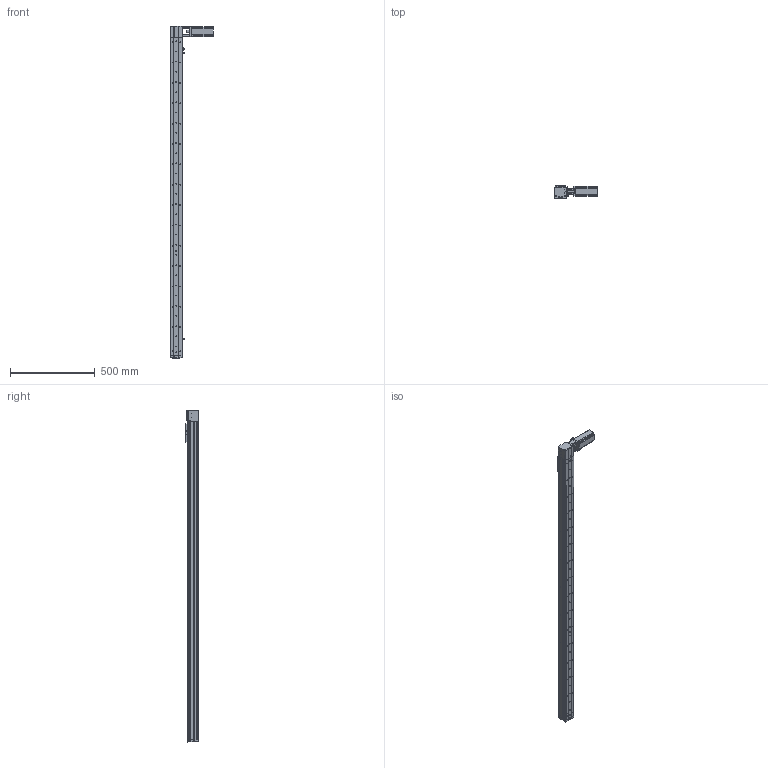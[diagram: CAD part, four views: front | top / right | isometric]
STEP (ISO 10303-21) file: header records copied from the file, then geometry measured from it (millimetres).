
FILE_DESCRIPTION (( 'STEP AP214' ), '1' );
FILE_NAME ('KSD68BS-S1700-MRT-CR.STEP', '2019-08-27T07:35:39', ( '微软用户' ), ( '微软中国' ), 'SwSTEP 2.0', 'SolidWorks 2014', '' );
FILE_SCHEMA (( 'AUTOMOTIVE_DESIGN' ));
Length unit declared in the file: millimetre
Products named in the file (13): KSD68BS 1700行程侧板全封闭; 68宽单导轨全封闭同步带端板; 68单导轨全封闭同步带电机座左; 68单导轨全封闭同步带安装板; 感应片68宽全封闭; U倰嫖萇EEㄜSX672; 台达ECMA－C20604AS伺服电机（400W); KSD68BS 1700行程底板全封闭; KSD68BS-S1700-MRT-CR; 100遵鎮湛假蚾啣1; 68遵裔啣揤啣1; KSD68BS 1700行程盖板全封闭; 68宽单导轨全封闭丝杆传动安装板1防护罩
Assembly tree (15 placements, depth 2):
  KSD68BS-S1700-MRT-CR
    KSD68BS 1700行程底板全封闭
    台达ECMA－C20604AS伺服电机（400W)
    U倰嫖萇EEㄜSX672  x3
    感应片68宽全封闭
    68单导轨全封闭同步带安装板
    68单导轨全封闭同步带电机座左
    68宽单导轨全封闭同步带端板
    KSD68BS 1700行程侧板全封闭  x2
    68宽单导轨全封闭丝杆传动安装板1防护罩
    KSD68BS 1700行程盖板全封闭
    68遵裔啣揤啣1
    100遵鎮湛假蚾啣1
Bounding box: 252.7 x 77 x 1958.1 mm (x, y, z)
Volume: 3426243.1 mm3; surface area: 1376865.5 mm2
Topology: 16 solids, 16 shells, 1546 faces, 4477 edges, 2848 vertices
Faces by surface type: cylinder 763, plane 595, cone 188
Entity records: 51322 total; most frequent: CARTESIAN_POINT 8956, DIRECTION 7557, ORIENTED_EDGE 7236, EDGE_CURVE 3618, AXIS2_PLACEMENT_3D 2765, VERTEX_POINT 2370, LINE 2027, VECTOR 2027
